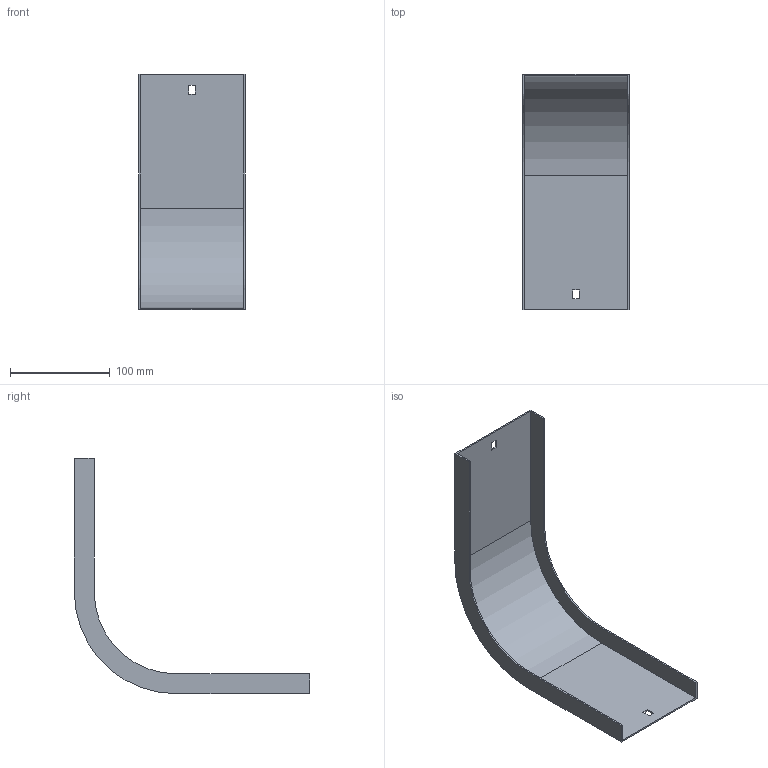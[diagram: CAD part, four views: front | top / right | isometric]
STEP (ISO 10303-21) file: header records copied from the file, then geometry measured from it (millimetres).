
FILE_DESCRIPTION (( 'STEP AP214' ), '1' );
FILE_NAME ('33G1D100.step', '2025-02-21T12:43:41', ( '' ), ( '' ), 'SwSTEP 2.0', 'SolidWorks 2023', '' );
FILE_SCHEMA (( 'AUTOMOTIVE_DESIGN' ));
Length unit declared in the file: millimetre
Products named in the file (1): 33G1D100
Bounding box: 107 x 235.5 x 235.5 mm (x, y, z)
Volume: 91024.4 mm3; surface area: 123082.4 mm2
Topology: 1 solids, 1 shells, 26 faces, 72 edges, 48 vertices
Faces by surface type: plane 22, cylinder 4
Entity records: 855 total; most frequent: CARTESIAN_POINT 147, ORIENTED_EDGE 144, DIRECTION 134, EDGE_CURVE 72, VECTOR 64, LINE 64, VERTEX_POINT 48, AXIS2_PLACEMENT_3D 35
